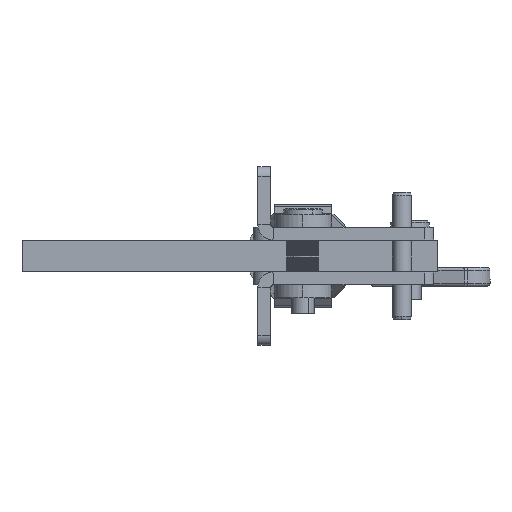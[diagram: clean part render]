
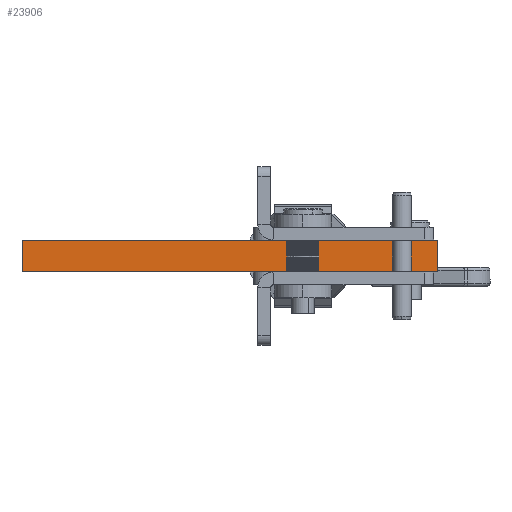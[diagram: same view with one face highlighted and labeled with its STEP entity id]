
A CAD part, front view. The second image highlights one B-rep face of the part: STEP entity #23906.
In plain terms, the highlighted planar face has unit normal (0, -1, 0).
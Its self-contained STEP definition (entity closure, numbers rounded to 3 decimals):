
#213 = CARTESIAN_POINT ( 'NONE',  ( 130., 0., 0. ) ) ;
#3223 = CARTESIAN_POINT ( 'NONE',  ( 0., 0., 10. ) ) ;
#3482 = EDGE_CURVE ( 'NONE', #20786, #39665, #8575, .T. ) ;
#3815 = LINE ( 'NONE', #35833, #26658 ) ;
#3828 = VECTOR ( 'NONE', #37010, 1000. ) ;
#4122 = EDGE_CURVE ( 'NONE', #20786, #22055, #14027, .T. ) ;
#4513 = ORIENTED_EDGE ( 'NONE', *, *, #3482, .T. ) ;
#6444 = CARTESIAN_POINT ( 'NONE',  ( 130., 0., 10. ) ) ;
#7392 = DIRECTION ( 'NONE',  ( 0., 0., -1. ) ) ;
#8575 = LINE ( 'NONE', #30710, #26145 ) ;
#9218 = LINE ( 'NONE', #12051, #3828 ) ;
#9702 = EDGE_LOOP ( 'NONE', ( #30577, #13133, #32623, #4513 ) ) ;
#12029 = EDGE_CURVE ( 'NONE', #22055, #46106, #9218, .T. ) ;
#12051 = CARTESIAN_POINT ( 'NONE',  ( 130., 0., 10. ) ) ;
#13133 = ORIENTED_EDGE ( 'NONE', *, *, #12029, .F. ) ;
#13749 = PLANE ( 'NONE',  #19967 ) ;
#14027 = LINE ( 'NONE', #3223, #41962 ) ;
#14398 = DIRECTION ( 'NONE',  ( 1., 0., 0. ) ) ;
#17271 = DIRECTION ( 'NONE',  ( 0., 1., 0. ) ) ;
#19967 = AXIS2_PLACEMENT_3D ( 'NONE', #42938, #17271, #7392 ) ;
#20786 = VERTEX_POINT ( 'NONE', #37028 ) ;
#22055 = VERTEX_POINT ( 'NONE', #6444 ) ;
#23906 = ADVANCED_FACE ( 'NONE', ( #42238 ), #13749, .F. ) ;
#26145 = VECTOR ( 'NONE', #45058, 1000. ) ;
#26658 = VECTOR ( 'NONE', #14398, 1000. ) ;
#27278 = DIRECTION ( 'NONE',  ( 1., 0., 0. ) ) ;
#30577 = ORIENTED_EDGE ( 'NONE', *, *, #34946, .T. ) ;
#30710 = CARTESIAN_POINT ( 'NONE',  ( 0., 0., 10. ) ) ;
#32623 = ORIENTED_EDGE ( 'NONE', *, *, #4122, .F. ) ;
#34946 = EDGE_CURVE ( 'NONE', #39665, #46106, #3815, .T. ) ;
#35833 = CARTESIAN_POINT ( 'NONE',  ( 0., 0., 0. ) ) ;
#37010 = DIRECTION ( 'NONE',  ( 0., 0., -1. ) ) ;
#37028 = CARTESIAN_POINT ( 'NONE',  ( 0., 0., 10. ) ) ;
#39352 = CARTESIAN_POINT ( 'NONE',  ( 0., 0., 0. ) ) ;
#39665 = VERTEX_POINT ( 'NONE', #39352 ) ;
#41962 = VECTOR ( 'NONE', #27278, 1000. ) ;
#42238 = FACE_OUTER_BOUND ( 'NONE', #9702, .T. ) ;
#42938 = CARTESIAN_POINT ( 'NONE',  ( 0., 0., 10. ) ) ;
#45058 = DIRECTION ( 'NONE',  ( 0., 0., -1. ) ) ;
#46106 = VERTEX_POINT ( 'NONE', #213 ) ;
